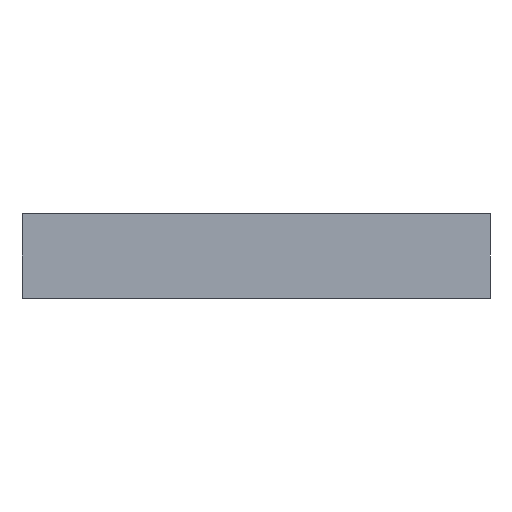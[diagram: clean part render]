
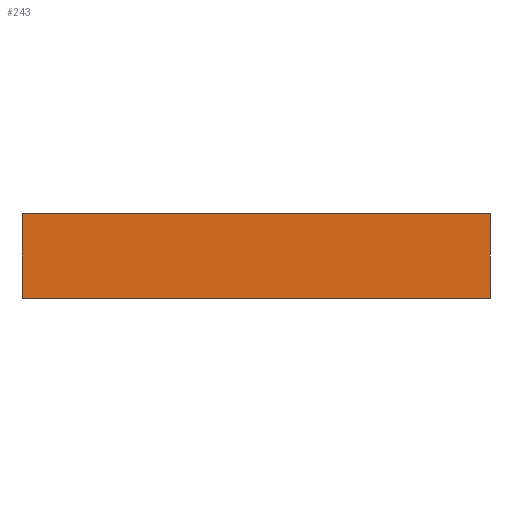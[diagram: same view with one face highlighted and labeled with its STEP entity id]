
A CAD part, left-side view. The second image highlights one B-rep face of the part: STEP entity #243.
In plain terms, the highlighted planar face has unit normal (-1, 0, 0).
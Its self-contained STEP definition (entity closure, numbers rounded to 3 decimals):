
#8 = CARTESIAN_POINT ( 'NONE',  ( -728., -50., 18. ) ) ;
#25 = ORIENTED_EDGE ( 'NONE', *, *, #908, .T. ) ;
#61 = ORIENTED_EDGE ( 'NONE', *, *, #1080, .F. ) ;
#92 = VERTEX_POINT ( 'NONE', #1033 ) ;
#148 = VECTOR ( 'NONE', #310, 1000. ) ;
#190 = DIRECTION ( 'NONE',  ( 0., -1., 0. ) ) ;
#220 = CARTESIAN_POINT ( 'NONE',  ( -728., -50., 18. ) ) ;
#230 = LINE ( 'NONE', #793, #148 ) ;
#243 = ADVANCED_FACE ( 'NONE', ( #617 ), #732, .F. ) ;
#248 = VECTOR ( 'NONE', #190, 1000. ) ;
#310 = DIRECTION ( 'NONE',  ( 0., -1., 0. ) ) ;
#371 = ORIENTED_EDGE ( 'NONE', *, *, #488, .T. ) ;
#377 = VERTEX_POINT ( 'NONE', #573 ) ;
#404 = LINE ( 'NONE', #736, #593 ) ;
#488 = EDGE_CURVE ( 'NONE', #866, #92, #1036, .T. ) ;
#512 = EDGE_LOOP ( 'NONE', ( #371, #61, #820, #25 ) ) ;
#545 = DIRECTION ( 'NONE',  ( 0., 0., -1. ) ) ;
#573 = CARTESIAN_POINT ( 'NONE',  ( -728., 50., 18. ) ) ;
#593 = VECTOR ( 'NONE', #1084, 1000. ) ;
#617 = FACE_OUTER_BOUND ( 'NONE', #512, .T. ) ;
#685 = EDGE_CURVE ( 'NONE', #377, #796, #230, .T. ) ;
#732 = PLANE ( 'NONE',  #839 ) ;
#736 = CARTESIAN_POINT ( 'NONE',  ( -728., 50., 18. ) ) ;
#757 = CARTESIAN_POINT ( 'NONE',  ( -728., 50., 0. ) ) ;
#791 = DIRECTION ( 'NONE',  ( 0., 0., -1. ) ) ;
#793 = CARTESIAN_POINT ( 'NONE',  ( -728., 50., 18. ) ) ;
#796 = VERTEX_POINT ( 'NONE', #8 ) ;
#797 = LINE ( 'NONE', #220, #1050 ) ;
#820 = ORIENTED_EDGE ( 'NONE', *, *, #685, .F. ) ;
#839 = AXIS2_PLACEMENT_3D ( 'NONE', #878, #1045, #545 ) ;
#866 = VERTEX_POINT ( 'NONE', #757 ) ;
#878 = CARTESIAN_POINT ( 'NONE',  ( -728., 50., 18. ) ) ;
#908 = EDGE_CURVE ( 'NONE', #377, #866, #404, .T. ) ;
#945 = CARTESIAN_POINT ( 'NONE',  ( -728., 50., 0. ) ) ;
#1033 = CARTESIAN_POINT ( 'NONE',  ( -728., -50., 0. ) ) ;
#1036 = LINE ( 'NONE', #945, #248 ) ;
#1045 = DIRECTION ( 'NONE',  ( 1., 0., 0. ) ) ;
#1050 = VECTOR ( 'NONE', #791, 1000. ) ;
#1080 = EDGE_CURVE ( 'NONE', #796, #92, #797, .T. ) ;
#1084 = DIRECTION ( 'NONE',  ( 0., 0., -1. ) ) ;
